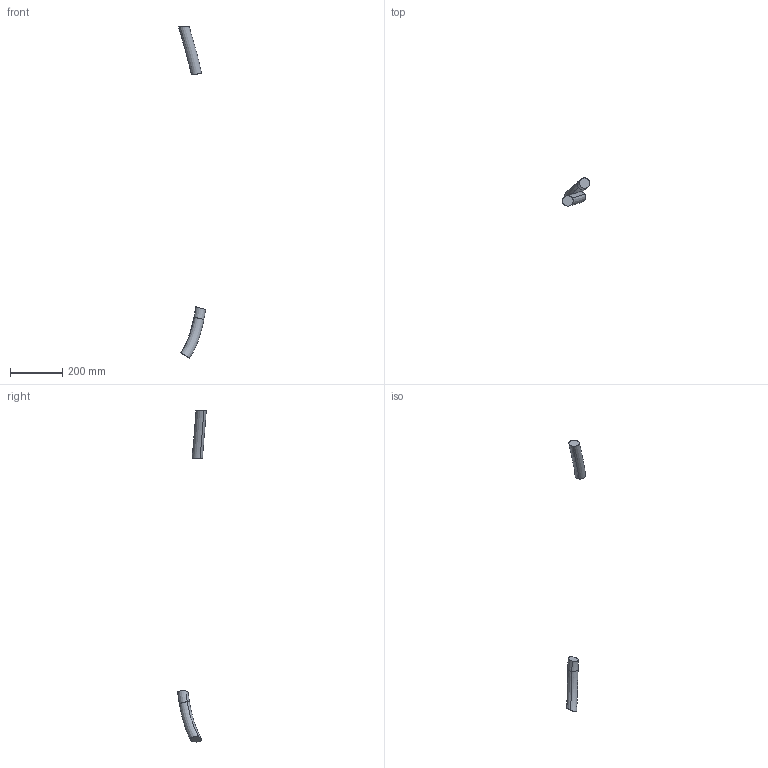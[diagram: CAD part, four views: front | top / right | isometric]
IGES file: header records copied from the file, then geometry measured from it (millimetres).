
Start section: SolidWorks IGES file using analytic representation for surfaces
Global section: file name: C:\DATA\SAP_DOC\LW\IRB 6720\IRB6720-LID-MH_200kg-280_OC_01_SW_J\export\IRB6720-LID-MH_200kg-280_OC_01_IGES_J\IRB6720-LID-MH_200kg-280_OC_00_LINK02_CABLE.igs; native system: SolidWorks 2024; preprocessor: SolidWorks 2024; author: SEJOVAS3; date: 260526.090906; units: millimetre
Bounding box: 104.37 x 109.24 x 1265.51 mm (x, y, z)
Surface area: 53396.2 mm2 (no closed solid volume)
Topology: 0 solids, 0 shells, 10 faces, 397 edges, 397 vertices
Faces by surface type: bspline 10
